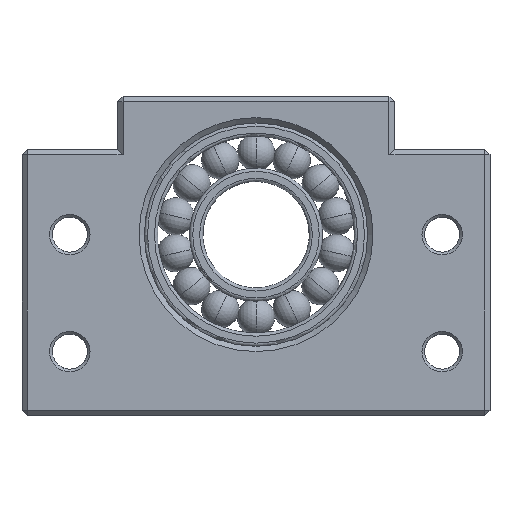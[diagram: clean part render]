
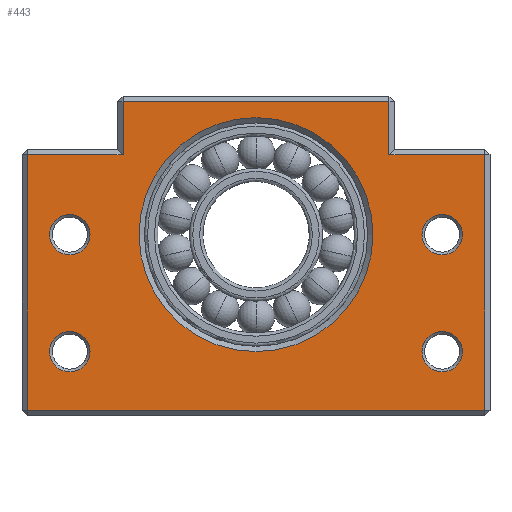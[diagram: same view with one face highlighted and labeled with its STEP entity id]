
A CAD part, top view. The second image highlights one B-rep face of the part: STEP entity #443.
In plain terms, the highlighted planar face has unit normal (0, 0, 1).
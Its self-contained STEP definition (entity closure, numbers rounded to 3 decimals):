
#443=ADVANCED_FACE('',(#1530,#1532,#1534,#1536,#1538,#1540),#1542,.T.);
#1530=FACE_BOUND('',#1531,.T.);
#1531=EDGE_LOOP('',(#2352,#2353,#2354,#2355,#2356,#2357,#2358,#2359));
#1532=FACE_BOUND('',#1533,.T.);
#1533=EDGE_LOOP('',(#2360));
#1534=FACE_BOUND('',#1535,.T.);
#1535=EDGE_LOOP('',(#2361));
#1536=FACE_BOUND('',#1537,.T.);
#1537=EDGE_LOOP('',(#2362));
#1538=FACE_BOUND('',#1539,.T.);
#1539=EDGE_LOOP('',(#2363));
#1540=FACE_BOUND('',#1541,.T.);
#1541=EDGE_LOOP('',(#2364));
#1542=PLANE('',#1543);
#1543=AXIS2_PLACEMENT_3D('',#1544,#1545,#1546);
#1544=CARTESIAN_POINT('',(-44.,0.,13.));
#1545=DIRECTION('',(-0.,0.,1.));
#1546=DIRECTION('',(1.,0.,0.));
#2352=ORIENTED_EDGE('',*,*,#2693,.T.);
#2353=ORIENTED_EDGE('',*,*,#2694,.T.);
#2354=ORIENTED_EDGE('',*,*,#2695,.T.);
#2355=ORIENTED_EDGE('',*,*,#2696,.T.);
#2356=ORIENTED_EDGE('',*,*,#2697,.T.);
#2357=ORIENTED_EDGE('',*,*,#2698,.T.);
#2358=ORIENTED_EDGE('',*,*,#2699,.T.);
#2359=ORIENTED_EDGE('',*,*,#2700,.T.);
#2360=ORIENTED_EDGE('',*,*,#2647,.T.);
#2361=ORIENTED_EDGE('',*,*,#2644,.T.);
#2362=ORIENTED_EDGE('',*,*,#2641,.T.);
#2363=ORIENTED_EDGE('',*,*,#2638,.T.);
#2364=ORIENTED_EDGE('',*,*,#2668,.T.);
#2638=EDGE_CURVE('',#2827,#2827,#2828,.T.);
#2641=EDGE_CURVE('',#2833,#2833,#2834,.T.);
#2644=EDGE_CURVE('',#2839,#2839,#2840,.T.);
#2647=EDGE_CURVE('',#2845,#2845,#2846,.T.);
#2668=EDGE_CURVE('',#2887,#2887,#2888,.T.);
#2693=EDGE_CURVE('',#2937,#2938,#2939,.T.);
#2694=EDGE_CURVE('',#2938,#2940,#2941,.T.);
#2695=EDGE_CURVE('',#2940,#2942,#2943,.T.);
#2696=EDGE_CURVE('',#2942,#2944,#2945,.T.);
#2697=EDGE_CURVE('',#2944,#2946,#2947,.T.);
#2698=EDGE_CURVE('',#2946,#2948,#2949,.T.);
#2699=EDGE_CURVE('',#2948,#2950,#2951,.T.);
#2700=EDGE_CURVE('',#2950,#2937,#2952,.T.);
#2827=VERTEX_POINT('',#3163);
#2828=CIRCLE('',#3164,3.8);
#2833=VERTEX_POINT('',#3178);
#2834=CIRCLE('',#3179,3.8);
#2839=VERTEX_POINT('',#3193);
#2840=CIRCLE('',#3194,3.8);
#2845=VERTEX_POINT('',#3208);
#2846=CIRCLE('',#3209,3.8);
#2887=VERTEX_POINT('',#3616);
#2888=CIRCLE('',#3617,22.);
#2937=VERTEX_POINT('',#5689);
#2938=VERTEX_POINT('',#5690);
#2939=LINE('',#5691,#5692);
#2940=VERTEX_POINT('',#5694);
#2941=LINE('',#5695,#5696);
#2942=VERTEX_POINT('',#5698);
#2943=LINE('',#5699,#5700);
#2944=VERTEX_POINT('',#5702);
#2945=LINE('',#5703,#5704);
#2946=VERTEX_POINT('',#5706);
#2947=LINE('',#5707,#5708);
#2948=VERTEX_POINT('',#5710);
#2949=LINE('',#5711,#5712);
#2950=VERTEX_POINT('',#5714);
#2951=LINE('',#5715,#5716);
#2952=LINE('',#5718,#5719);
#3163=CARTESIAN_POINT('',(-31.2,34.,13.));
#3164=AXIS2_PLACEMENT_3D('',#3165,#3166,#3167);
#3165=CARTESIAN_POINT('',(-35.,34.,13.));
#3166=DIRECTION('',(0.,-0.,-1.));
#3167=DIRECTION('',(1.,0.,0.));
#3178=CARTESIAN_POINT('',(-31.2,12.,13.));
#3179=AXIS2_PLACEMENT_3D('',#3180,#3181,#3182);
#3180=CARTESIAN_POINT('',(-35.,12.,13.));
#3181=DIRECTION('',(0.,-0.,-1.));
#3182=DIRECTION('',(1.,0.,0.));
#3193=CARTESIAN_POINT('',(38.8,34.,13.));
#3194=AXIS2_PLACEMENT_3D('',#3195,#3196,#3197);
#3195=CARTESIAN_POINT('',(35.,34.,13.));
#3196=DIRECTION('',(0.,-0.,-1.));
#3197=DIRECTION('',(1.,0.,0.));
#3208=CARTESIAN_POINT('',(38.8,12.,13.));
#3209=AXIS2_PLACEMENT_3D('',#3210,#3211,#3212);
#3210=CARTESIAN_POINT('',(35.,12.,13.));
#3211=DIRECTION('',(0.,-0.,-1.));
#3212=DIRECTION('',(1.,0.,0.));
#3616=CARTESIAN_POINT('',(22.,34.,13.));
#3617=AXIS2_PLACEMENT_3D('',#3618,#3619,#3620);
#3618=CARTESIAN_POINT('',(0.,34.,13.));
#3619=DIRECTION('',(0.,-0.,-1.));
#3620=DIRECTION('',(1.,0.,0.));
#5689=CARTESIAN_POINT('',(25.,59.,13.));
#5690=CARTESIAN_POINT('',(-25.,59.,13.));
#5691=CARTESIAN_POINT('',(25.,59.,13.));
#5692=VECTOR('',#5693,1.);
#5693=DIRECTION('',(-1.,0.,0.));
#5694=CARTESIAN_POINT('',(-25.,49.,13.));
#5695=CARTESIAN_POINT('',(-25.,59.,13.));
#5696=VECTOR('',#5697,1.);
#5697=DIRECTION('',(0.,-1.,0.));
#5698=CARTESIAN_POINT('',(-43.,49.,13.));
#5699=CARTESIAN_POINT('',(-25.,49.,13.));
#5700=VECTOR('',#5701,1.);
#5701=DIRECTION('',(-1.,0.,0.));
#5702=CARTESIAN_POINT('',(-43.,1.,13.));
#5703=CARTESIAN_POINT('',(-43.,49.,13.));
#5704=VECTOR('',#5705,1.);
#5705=DIRECTION('',(0.,-1.,0.));
#5706=CARTESIAN_POINT('',(43.,1.,13.));
#5707=CARTESIAN_POINT('',(-43.,1.,13.));
#5708=VECTOR('',#5709,1.);
#5709=DIRECTION('',(1.,0.,0.));
#5710=CARTESIAN_POINT('',(43.,49.,13.));
#5711=CARTESIAN_POINT('',(43.,1.,13.));
#5712=VECTOR('',#5713,1.);
#5713=DIRECTION('',(0.,1.,0.));
#5714=CARTESIAN_POINT('',(25.,49.,13.));
#5715=CARTESIAN_POINT('',(43.,49.,13.));
#5716=VECTOR('',#5717,1.);
#5717=DIRECTION('',(-1.,0.,0.));
#5718=CARTESIAN_POINT('',(25.,49.,13.));
#5719=VECTOR('',#5720,1.);
#5720=DIRECTION('',(0.,1.,0.));
